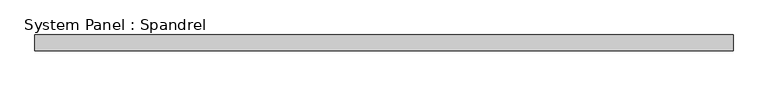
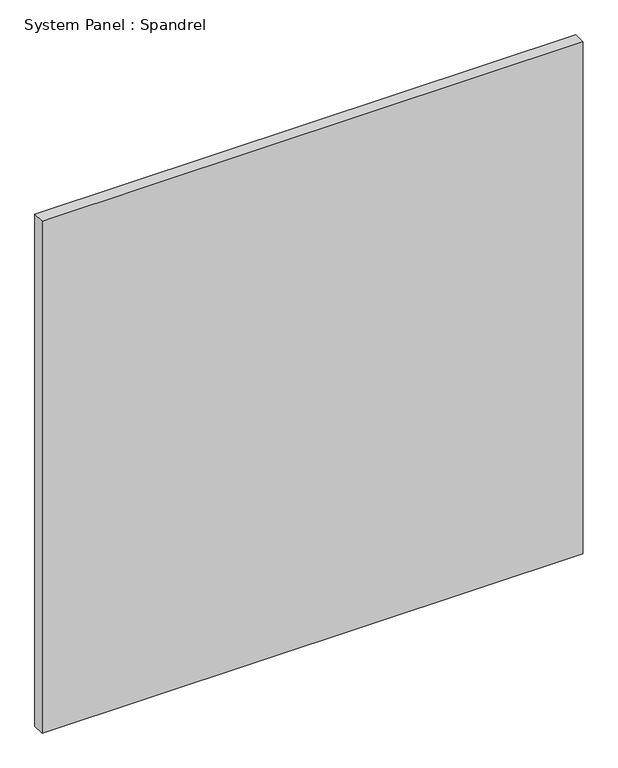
"""IFC4 building model written with IfcOpenShell, lengths in millimetres: plate geometry, System Panel : Spandrel."""

from ifc_helpers import new_model, si_unit, origin, origin_with_axes, place, context, project, spatial, polyline, outline, extrude, source, transform, mapped, element, save


def system_panel_spandrel_af4ae396(model_context):
    return source(origin(), model_context, "Body", "SweptSolid", [
        extrude(outline(polyline([(550.0000002, 0.0), (-550.0000002, 0.0), (-550.0000002, 25.0), (550.0000002, 25.0), (550.0000002, 0.0)])), origin_with_axes(), (0.0, 0.0, 1.0), 1100.0),
    ])


if __name__ == "__main__":
    model = new_model("IFC4")
    model_context = context("Model", 3, world=origin())
    ifc_project = project(units=[si_unit("LENGTHUNIT", "METRE", prefix="MILLI")], contexts=[model_context])
    site = spatial("IfcSite", under=ifc_project)
    building = spatial("IfcBuilding", under=site)
    placement = place(None, origin())
    system_panel_spandrel_shape = system_panel_spandrel_af4ae396(model_context)
    element("IfcPlate", 1, ObjectType="System Panel : Spandrel", at=placement, inside=building, context=model_context, shape_type="MappedRepresentation", body=[
        mapped(system_panel_spandrel_shape, transform((0.0, 0.0, 0.0), x_axis=(1.0, 0.0, 0.0), y_axis=(0.0, 1.0, 0.0), z_axis=(0.0, 0.0, 1.0))),
    ])
    save(model, "model.ifc")
